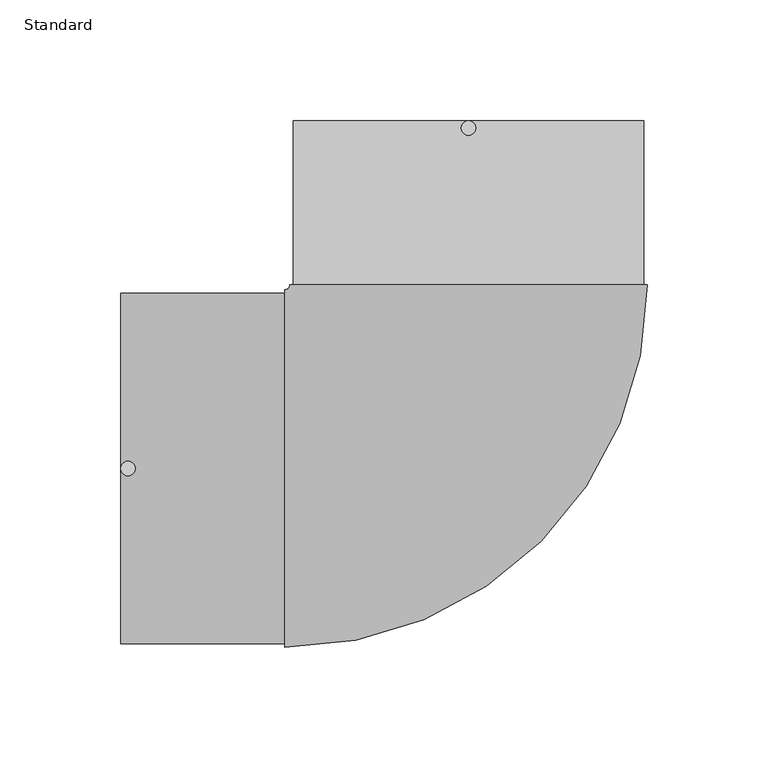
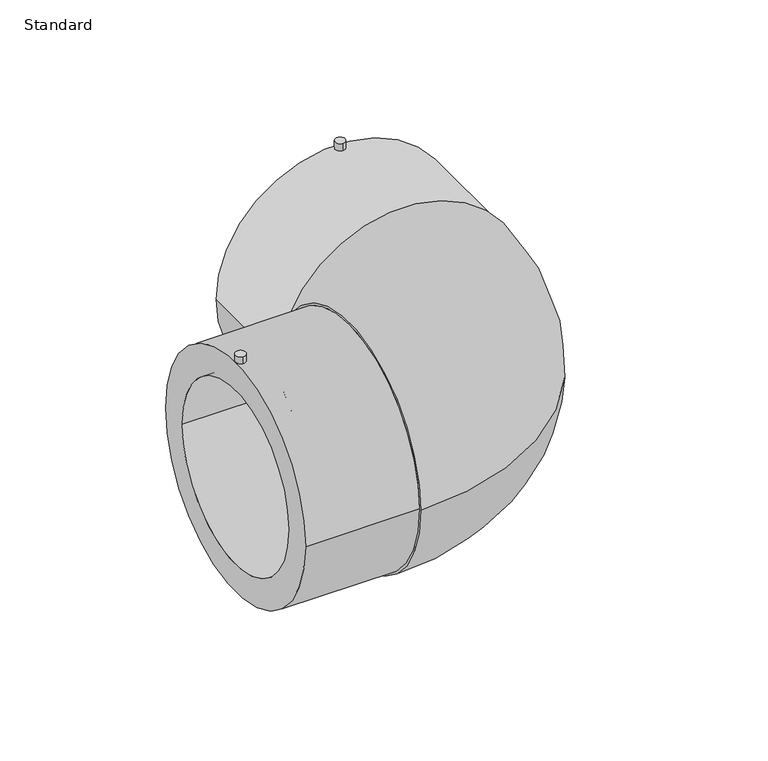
"""IFC4 building model written with IfcOpenShell, lengths in millimetres: pipe fitting geometry, EGB_VASEN_ PPR_Codo electrosoldable 90 WXRD200_Codo electrosoldable 45 WXRD220 : Standard."""

from ifc_helpers import new_model, si_unit, point, frame, frame_2d, origin, place, context, project, spatial, polyline, circle_curve, ellipse_curve, trimmed, segment, composite_curve, outline, extrude, source, transform, mapped, element, save
from ifc_brep_helpers import plane_surface, cylinder_surface, revolved_surface, advanced_brep


def standard_d994e7d2(model_context):
    return source(origin(), model_context, "Body", "SolidModel", [
        advanced_brep(
        [(-144.0, -72.5, 0.0), (-144.0, 72.5, 0.0), (-144.0, -55.0, 0.0), (-144.0, 55.0, 0.0), (-76.0, -72.5, 0.0), (-76.0, 72.5, 0.0), (-76.0, -55.0, 0.0), (-76.0, 55.0, 0.0), (-76.0, -74.0, 0.0), (-76.0, 74.0, 0.0), (74.0, 76.0, 0.0), (-74.0, 76.0, 0.0), (72.5, 76.0, 0.0), (-72.5, 76.0, 0.0), (55.0, 76.0, 0.0), (-55.0, 76.0, 0.0), (72.5, 144.0, 0.0), (-72.5, 144.0, 0.0), (55.0, 144.0, 0.0), (-55.0, 144.0, 0.0)],
        [
            (0, 1, circle_curve(frame((-144.0, 0.0, 0.0), z_axis=(-1.0, 0.0, 0.0), x_axis=(0.0, 1.0, 0.0)), 72.5)),
            (1, 0, circle_curve(frame((-144.0, 0.0, 0.0), z_axis=(-1.0, 0.0, 0.0), x_axis=(0.0, 1.0, 0.0)), 72.5)),
            (2, 3, circle_curve(frame((-144.0, 0.0, 0.0), z_axis=(1.0, 0.0, 0.0), x_axis=(0.0, 1.0, 0.0)), 55.0)),
            (3, 2, circle_curve(frame((-144.0, 0.0, 0.0), z_axis=(1.0, 0.0, 0.0), x_axis=(0.0, 1.0, 0.0)), 55.0)),
            (0, 4),
            (4, 5, circle_curve(frame((-76.0, 0.0, 0.0), z_axis=(-1.0, 0.0, 0.0), x_axis=(0.0, 1.0, 0.0)), 72.5)),
            (5, 1),
            (5, 4, circle_curve(frame((-76.0, 0.0, 0.0), z_axis=(-1.0, 0.0, 0.0), x_axis=(0.0, 1.0, 0.0)), 72.5)),
            (2, 6),
            (6, 7, circle_curve(frame((-76.0, 0.0, 0.0), z_axis=(1.0, 0.0, 0.0), x_axis=(0.0, 1.0, 0.0)), 55.0)),
            (7, 3),
            (7, 6, circle_curve(frame((-76.0, 0.0, 0.0), z_axis=(1.0, 0.0, 0.0), x_axis=(0.0, 1.0, 0.0)), 55.0)),
            (8, 9, circle_curve(frame((-76.0, 0.0, 0.0), z_axis=(-1.0, 0.0, 0.0), x_axis=(0.0, 1.0, 0.0)), 74.0)),
            (9, 8, circle_curve(frame((-76.0, 0.0, 0.0), z_axis=(-1.0, 0.0, 0.0), x_axis=(0.0, 1.0, 0.0)), 74.0)),
            (10, 11, circle_curve(frame((0.0, 76.0, 0.0), z_axis=(0.0, 1.0, 0.0), x_axis=(-1.0, 0.0, 0.0)), 74.0)),
            (11, 10, circle_curve(frame((0.0, 76.0, 0.0), z_axis=(0.0, 1.0, 0.0), x_axis=(-1.0, 0.0, 0.0)), 74.0)),
            (12, 13, circle_curve(frame((0.0, 76.0, 0.0), z_axis=(0.0, -1.0, 0.0), x_axis=(-1.0, 0.0, 0.0)), 72.5)),
            (13, 12, circle_curve(frame((0.0, 76.0, 0.0), z_axis=(0.0, -1.0, 0.0), x_axis=(-1.0, 0.0, 0.0)), 72.5)),
            (14, 15, circle_curve(frame((0.0, 76.0, 0.0), z_axis=(0.0, 1.0, 0.0), x_axis=(-1.0, 0.0, 0.0)), 55.0)),
            (15, 14, circle_curve(frame((0.0, 76.0, 0.0), z_axis=(0.0, 1.0, 0.0), x_axis=(-1.0, 0.0, 0.0)), 55.0)),
            (8, 10, circle_curve(frame((-76.0, 76.0, 0.0), z_axis=(0.0, 0.0, 1.0), x_axis=(0.0, -1.0, 0.0)), 150.0)),
            (11, 9, circle_curve(frame((-76.0, 76.0, 0.0), z_axis=(0.0, 0.0, -1.0), x_axis=(0.0, -1.0, 0.0)), 2.0)),
            (16, 17, circle_curve(frame((0.0, 144.0, 0.0), z_axis=(0.0, 1.0, 0.0), x_axis=(-1.0, 0.0, 0.0)), 72.5)),
            (17, 16, circle_curve(frame((0.0, 144.0, 0.0), z_axis=(0.0, 1.0, 0.0), x_axis=(-1.0, 0.0, 0.0)), 72.5)),
            (18, 19, circle_curve(frame((0.0, 144.0, 0.0), z_axis=(0.0, -1.0, 0.0), x_axis=(-1.0, 0.0, 0.0)), 55.0)),
            (19, 18, circle_curve(frame((0.0, 144.0, 0.0), z_axis=(0.0, -1.0, 0.0), x_axis=(-1.0, 0.0, 0.0)), 55.0)),
            (17, 13),
            (12, 16),
            (19, 15),
            (14, 18),
        ],
        [
            plane_surface(frame((-144.0, 0.0, 0.0), z_axis=(-1.0, 0.0, 0.0), x_axis=(0.0, 0.0, 1.0))),
            cylinder_surface(frame((-144.0, 0.0, 0.0), z_axis=(-1.0, 0.0, 0.0), x_axis=(0.0, 1.0, 0.0)), 72.5),
            revolved_surface(polyline([(-76.0, 55.0, 0.0), (-144.0, 55.0, 0.0)]), (-144.0, 0.0, 0.0), (1.0, 0.0, 0.0)),
            plane_surface(frame((-76.0, 0.0, 0.0), z_axis=(-1.0, 0.0, 0.0), x_axis=(0.0, 0.0, 1.0))),
            plane_surface(frame((0.0, 76.0, 0.0), z_axis=(0.0, 1.0, 0.0), x_axis=(0.0, 0.0, 1.0))),
            revolved_surface(trimmed(ellipse_curve(frame((-76.0, 0.0, 0.0), z_axis=(-1.0, 0.0, 0.0), x_axis=(0.0, 1.0, 0.0)), 74.0, 74.0), [point((-76.0, -74.0, 0.0))], [point((-76.0, 74.0, 0.0))], True, "CARTESIAN"), (-76.0, 76.0, 0.0), (0.0, 0.0, 1.0)),
            revolved_surface(trimmed(ellipse_curve(frame((-76.0, 0.0, 0.0), z_axis=(-1.0, 0.0, 0.0), x_axis=(0.0, 1.0, 0.0)), 74.0, 74.0), [point((-76.0, 74.0, 0.0))], [point((-76.0, -74.0, 0.0))], True, "CARTESIAN"), (-76.0, 76.0, 0.0), (0.0, 0.0, 1.0)),
            plane_surface(frame((0.0, 144.0, 0.0), z_axis=(0.0, 1.0, 0.0), x_axis=(0.0, 0.0, 1.0))),
            cylinder_surface(frame((0.0, 76.0, 0.0), z_axis=(0.0, -1.0, 0.0), x_axis=(-1.0, 0.0, 0.0)), 72.5),
            revolved_surface(polyline([(-55.0, 144.0, 0.0), (-55.0, 76.0, 0.0)]), (0.0, 76.0, 0.0), (0.0, 1.0, 0.0)),
        ],
        [
            (0, [[1, 2], [3, 4]]),
            (1, [[-1, 5, 6, 7]]),
            (1, [[-2, -7, 8, -5]]),
            (2, [[-3, 9, 10, 11]]),
            (2, [[-4, -11, 12, -9]]),
            (3, [[-10, -12]]),
            (3, [[13, 14], [-6, -8]]),
            (4, [[15, 16], [17, 18]]),
            (4, [[19, 20]]),
            (5, [[-13, 21, -16, 22]]),
            (6, [[-14, -22, -15, -21]]),
            (7, [[23, 24], [25, 26]]),
            (8, [[-24, 27, -17, 28]]),
            (8, [[-23, -28, -18, -27]]),
            (9, [[-26, 29, -19, 30]]),
            (9, [[-25, -30, -20, -29]]),
        ],
    ),
        extrude(outline(composite_curve([segment(trimmed(circle_curve(frame_2d((0.0, 141.0)), 3.0), [point((0.0, 138.0))], [point((0.0, 144.0))], False, "CARTESIAN"), True, "CONTINUOUS"), segment(trimmed(circle_curve(frame_2d((0.0, 141.0)), 3.0), [point((0.0, 144.0))], [point((0.0, 138.0))], False, "CARTESIAN"), True, "CONTINUOUS")], self_intersect=False)), frame((0.0, 0.0, 56.0), z_axis=(0.0, 0.0, 1.0), x_axis=(1.0, 0.0, 0.0)), (0.0, 0.0, 1.0), 21.0),
        extrude(outline(composite_curve([segment(trimmed(circle_curve(frame_2d((-141.0, 0.0)), 3.0), [point((-141.0, -3.0))], [point((-141.0, 3.0))], False, "CARTESIAN"), True, "CONTINUOUS"), segment(trimmed(circle_curve(frame_2d((-141.0, 0.0)), 3.0), [point((-141.0, 3.0))], [point((-141.0, -3.0))], False, "CARTESIAN"), True, "CONTINUOUS")], self_intersect=False)), frame((0.0, 0.0, 56.0), z_axis=(0.0, 0.0, 1.0), x_axis=(1.0, 0.0, 0.0)), (0.0, 0.0, 1.0), 21.0),
    ])


if __name__ == "__main__":
    model = new_model("IFC4")
    model_context = context("Model", 3, world=origin())
    ifc_project = project(units=[si_unit("LENGTHUNIT", "METRE", prefix="MILLI")], contexts=[model_context])
    site = spatial("IfcSite", under=ifc_project)
    building = spatial("IfcBuilding", under=site)
    placement = place(None, origin())
    standard_shape = standard_d994e7d2(model_context)
    element("IfcPipeFitting", 1, ObjectType="EGB_VASEN_ PPR_Codo electrosoldable 90 WXRD200_Codo electrosoldable 45 WXRD220 : Standard", at=placement, inside=building, context=model_context, shape_type="MappedRepresentation", body=[
        mapped(standard_shape, transform((0.0, 0.0, 0.0), x_axis=(1.0, 0.0, 0.0), y_axis=(0.0, 1.0, 0.0), z_axis=(0.0, 0.0, 1.0))),
    ])
    save(model, "model.ifc")
